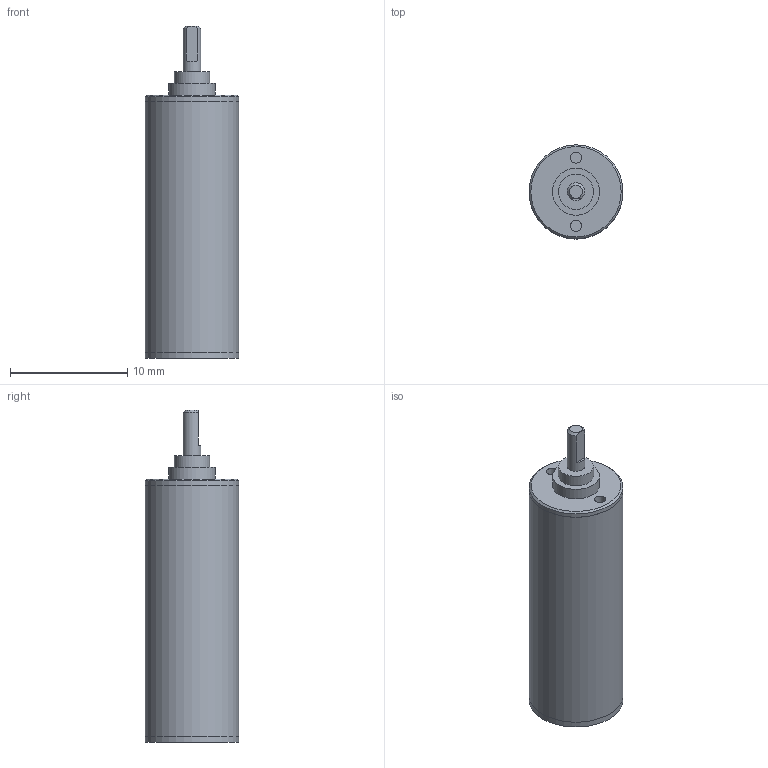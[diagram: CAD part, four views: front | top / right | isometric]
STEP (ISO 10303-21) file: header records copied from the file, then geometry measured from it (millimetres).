
FILE_DESCRIPTION(/* description */ (''),/* implementation_level */ '2;1');
FILE_NAME(/* name */ '08-2_8.stp',/* time_stamp */ '2016-08-23T14:08:02+02:00',/* author */ ('DR. FRITZ FAULHABER GmbH & Co. KG'),/* organization */ ('DR. FRITZ FAULHABER GmbH & Co. KG'),/* preprocessor_version */ 'ST-DEVELOPER v16',/* originating_system */ 'SIEMENS PLM Software NX 10.0',/* authorisation */ '');
FILE_SCHEMA (('AUTOMOTIVE_DESIGN { 1 0 10303 214 3 1 1 1 }'));
Length unit declared in the file: millimetre
Products named in the file (1): H00000394_A
Bounding box: 8 x 8 x 28.3 mm (x, y, z)
Volume: 1080.8 mm3; surface area: 770.8 mm2
Topology: 1 solids, 1 shells, 33 faces, 56 edges, 37 vertices
Faces by surface type: plane 16, cylinder 14, cone 3
Full cylindrical faces by diameter (mm): 0.95 x2, 1.5 x1, 2.13 x1, 2.53 x1, 3 x1, 4 x1, 4.959 x1, 6 x1, 7.99 x2, 8 x3
Entity records: 709 total; most frequent: DIRECTION 133, CARTESIAN_POINT 115, ORIENTED_EDGE 72, AXIS2_PLACEMENT_3D 65, EDGE_LOOP 61, FACE_BOUND 54, EDGE_CURVE 36, ADVANCED_FACE 33
